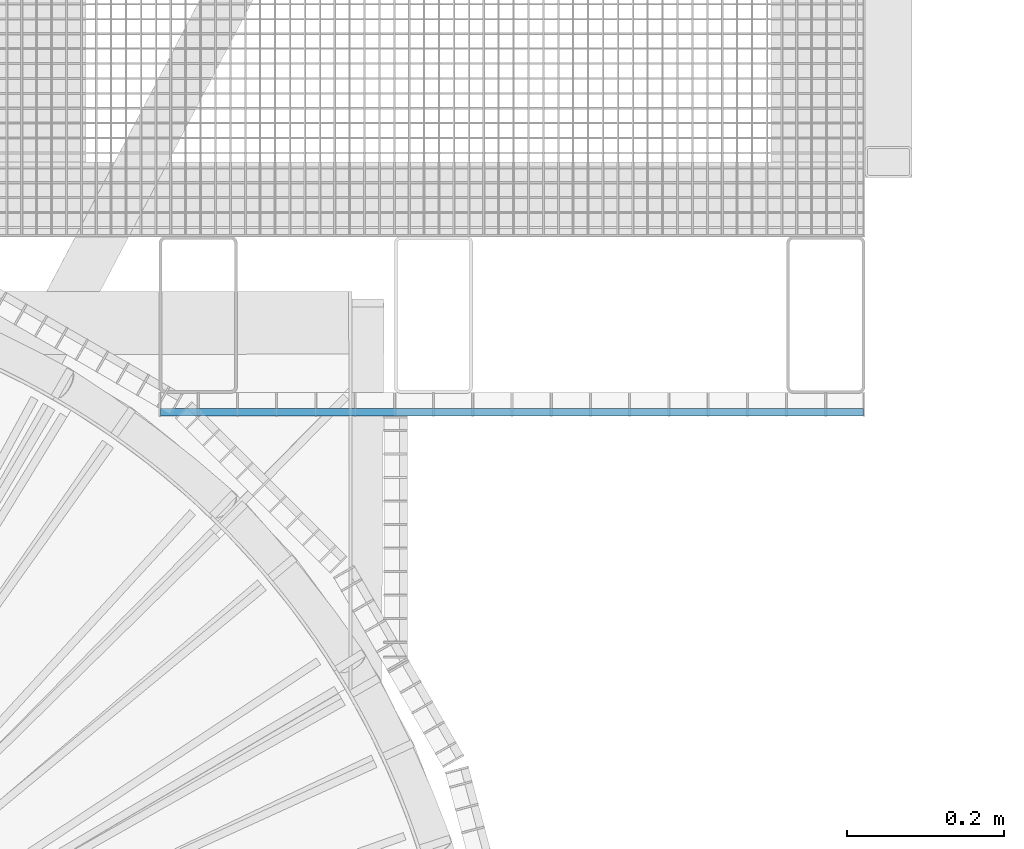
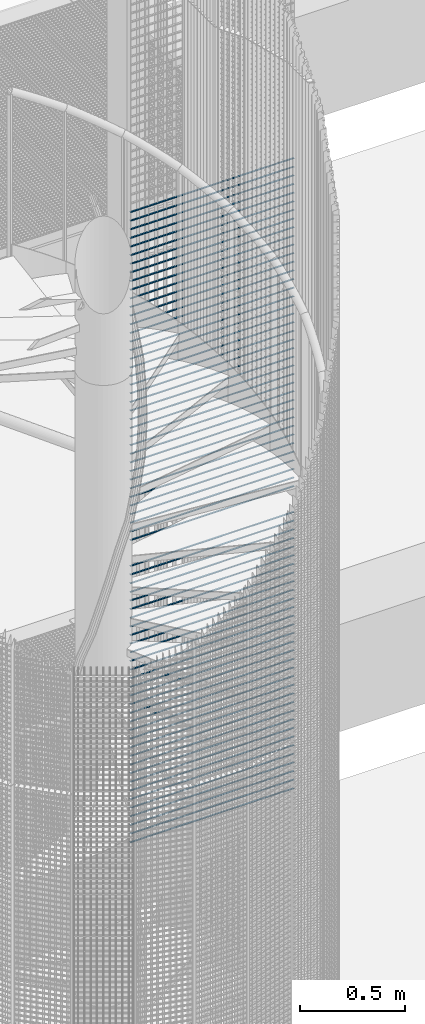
# One storey, part 305 of 1183: 72 beams, 1 element without a shape of its own.
"""IFC2X3 building model written with IfcOpenShell, lengths in millimetres."""

from ifc_helpers import new_model, si_unit, frame, origin_with_axes, origin_2d_with_axis, place, context, subcontext, project, spatial, rectangle, extrude, material, type_object, element, aggregate, save


model = new_model("IFC2X3")

# Units and contexts
model_context = context("Model", 3, precision=1e-05, world=origin_with_axes())
body_context = subcontext(model_context, "Body", "Model", "MODEL_VIEW")
ifc_project = project(units=[si_unit("LENGTHUNIT", "METRE", prefix="MILLI"), si_unit("AREAUNIT", "SQUARE_METRE"), si_unit("VOLUMEUNIT", "CUBIC_METRE"), si_unit("MASSUNIT", "GRAM", prefix="KILO"), si_unit("TIMEUNIT", "SECOND"), si_unit("PLANEANGLEUNIT", "RADIAN"), si_unit("SOLIDANGLEUNIT", "STERADIAN"), si_unit("THERMODYNAMICTEMPERATUREUNIT", "DEGREE_CELSIUS"), si_unit("LUMINOUSINTENSITYUNIT", "LUMEN")], contexts=[model_context])

# Site, building, storey
site_placement = place(None, origin_with_axes())
site = spatial("IfcSite", under=ifc_project, at=site_placement, Name="Undefined", CompositionType="ELEMENT")
building_placement = place(site_placement, origin_with_axes())
building = spatial("IfcBuilding", under=site, at=building_placement, Name="Undefined", CompositionType="ELEMENT")
storey_placement = place(building_placement, origin_with_axes())
storey = spatial("IfcBuildingStorey", under=building, at=storey_placement, Name="Undefined", CompositionType="ELEMENT", Elevation=0.0)

# Assembly, beams
assembly_placement = place(storey_placement, origin_with_axes())
assembly = element("IfcElementAssembly", 1, at=assembly_placement, inside=storey, Name="BORDURE", AssemblyPlace="NOTDEFINED", PredefinedType="NOTDEFINED")
ifc_material = material(Name="STEEL/S235JR")
beam_type = type_object("IfcBeamType", Name="PL2*10", PredefinedType="NOTDEFINED")
beam_1_placement = place(assembly_placement, frame((652.069589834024, 876.014689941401, 13839.998), z_axis=(0.0, -1.0, 0.0), x_axis=(1.0, 0.0, 0.0)))
beam_1 = element("IfcBeam", 2, at=beam_1_placement, type_object=beam_type, material=ifc_material, Name="ENTRETOISE", context=body_context, shape_type="SweptSolid", body=[
    extrude(rectangle(XDim=2.0, YDim=10.0, at=origin_2d_with_axis()), frame((896.0, 0.0, 0.0), z_axis=(-1.0, 0.0, 0.0), x_axis=(0.0, -1.0, 0.0)), (0.0, 0.0, 1.0), 896.0),
])
beam_2_placement = place(assembly_placement, frame((652.069589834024, 876.014689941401, 13789.998), z_axis=(0.0, -1.0, 0.0), x_axis=(1.0, 0.0, 0.0)))
beam_2 = element("IfcBeam", 3, at=beam_2_placement, type_object=beam_type, material=ifc_material, Name="ENTRETOISE", context=body_context, shape_type="SweptSolid", body=[
    extrude(rectangle(XDim=2.0, YDim=10.0, at=origin_2d_with_axis()), frame((896.0, 0.0, 0.0), z_axis=(-1.0, 0.0, 0.0), x_axis=(0.0, -1.0, 0.0)), (0.0, 0.0, 1.0), 896.0),
])
beam_3_placement = place(assembly_placement, frame((652.069589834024, 876.014689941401, 13739.998), z_axis=(0.0, -1.0, 0.0), x_axis=(1.0, 0.0, 0.0)))
beam_3 = element("IfcBeam", 4, at=beam_3_placement, type_object=beam_type, material=ifc_material, Name="ENTRETOISE", context=body_context, shape_type="SweptSolid", body=[
    extrude(rectangle(XDim=2.0, YDim=10.0, at=origin_2d_with_axis()), frame((896.0, 0.0, 0.0), z_axis=(-1.0, 0.0, 0.0), x_axis=(0.0, -1.0, 0.0)), (0.0, 0.0, 1.0), 896.0),
])
beam_4_placement = place(assembly_placement, frame((652.069589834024, 876.014689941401, 13689.998), z_axis=(0.0, -1.0, 0.0), x_axis=(1.0, 0.0, 0.0)))
beam_4 = element("IfcBeam", 5, at=beam_4_placement, type_object=beam_type, material=ifc_material, Name="ENTRETOISE", context=body_context, shape_type="SweptSolid", body=[
    extrude(rectangle(XDim=2.0, YDim=10.0, at=origin_2d_with_axis()), frame((896.0, 0.0, 0.0), z_axis=(-1.0, 0.0, 0.0), x_axis=(0.0, -1.0, 0.0)), (0.0, 0.0, 1.0), 896.0),
])
beam_5_placement = place(assembly_placement, frame((652.069589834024, 876.014689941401, 13639.998), z_axis=(0.0, -1.0, 0.0), x_axis=(1.0, 0.0, 0.0)))
beam_5 = element("IfcBeam", 6, at=beam_5_placement, type_object=beam_type, material=ifc_material, Name="ENTRETOISE", context=body_context, shape_type="SweptSolid", body=[
    extrude(rectangle(XDim=2.0, YDim=10.0, at=origin_2d_with_axis()), frame((896.0, 0.0, 0.0), z_axis=(-1.0, 0.0, 0.0), x_axis=(0.0, -1.0, 0.0)), (0.0, 0.0, 1.0), 896.0),
])
beam_6_placement = place(assembly_placement, frame((652.069589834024, 876.014689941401, 13589.998), z_axis=(0.0, -1.0, 0.0), x_axis=(1.0, 0.0, 0.0)))
beam_6 = element("IfcBeam", 7, at=beam_6_placement, type_object=beam_type, material=ifc_material, Name="ENTRETOISE", context=body_context, shape_type="SweptSolid", body=[
    extrude(rectangle(XDim=2.0, YDim=10.0, at=origin_2d_with_axis()), frame((896.0, 0.0, 0.0), z_axis=(-1.0, 0.0, 0.0), x_axis=(0.0, -1.0, 0.0)), (0.0, 0.0, 1.0), 896.0),
])
beam_7_placement = place(assembly_placement, frame((652.069589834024, 876.014689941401, 13539.998), z_axis=(0.0, -1.0, 0.0), x_axis=(1.0, 0.0, 0.0)))
beam_7 = element("IfcBeam", 8, at=beam_7_placement, type_object=beam_type, material=ifc_material, Name="ENTRETOISE", context=body_context, shape_type="SweptSolid", body=[
    extrude(rectangle(XDim=2.0, YDim=10.0, at=origin_2d_with_axis()), frame((896.0, 0.0, 0.0), z_axis=(-1.0, 0.0, 0.0), x_axis=(0.0, -1.0, 0.0)), (0.0, 0.0, 1.0), 896.0),
])
beam_8_placement = place(assembly_placement, frame((652.069589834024, 876.014689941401, 13489.998), z_axis=(0.0, -1.0, 0.0), x_axis=(1.0, 0.0, 0.0)))
beam_8 = element("IfcBeam", 9, at=beam_8_placement, type_object=beam_type, material=ifc_material, Name="ENTRETOISE", context=body_context, shape_type="SweptSolid", body=[
    extrude(rectangle(XDim=2.0, YDim=10.0, at=origin_2d_with_axis()), frame((896.0, 0.0, 0.0), z_axis=(-1.0, 0.0, 0.0), x_axis=(0.0, -1.0, 0.0)), (0.0, 0.0, 1.0), 896.0),
])
beam_9_placement = place(assembly_placement, frame((652.069589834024, 876.014689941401, 13439.998), z_axis=(0.0, -1.0, 0.0), x_axis=(1.0, 0.0, 0.0)))
beam_9 = element("IfcBeam", 10, at=beam_9_placement, type_object=beam_type, material=ifc_material, Name="ENTRETOISE", context=body_context, shape_type="SweptSolid", body=[
    extrude(rectangle(XDim=2.0, YDim=10.0, at=origin_2d_with_axis()), frame((896.0, 0.0, 0.0), z_axis=(-1.0, 0.0, 0.0), x_axis=(0.0, -1.0, 0.0)), (0.0, 0.0, 1.0), 896.0),
])
beam_10_placement = place(assembly_placement, frame((652.069589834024, 876.014689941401, 13389.998), z_axis=(0.0, -1.0, 0.0), x_axis=(1.0, 0.0, 0.0)))
beam_10 = element("IfcBeam", 11, at=beam_10_placement, type_object=beam_type, material=ifc_material, Name="ENTRETOISE", context=body_context, shape_type="SweptSolid", body=[
    extrude(rectangle(XDim=2.0, YDim=10.0, at=origin_2d_with_axis()), frame((896.0, 0.0, 0.0), z_axis=(-1.0, 0.0, 0.0), x_axis=(0.0, -1.0, 0.0)), (0.0, 0.0, 1.0), 896.0),
])
beam_11_placement = place(assembly_placement, frame((652.069589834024, 876.014689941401, 13339.998), z_axis=(0.0, -1.0, 0.0), x_axis=(1.0, 0.0, 0.0)))
beam_11 = element("IfcBeam", 12, at=beam_11_placement, type_object=beam_type, material=ifc_material, Name="ENTRETOISE", context=body_context, shape_type="SweptSolid", body=[
    extrude(rectangle(XDim=2.0, YDim=10.0, at=origin_2d_with_axis()), frame((896.0, 0.0, 0.0), z_axis=(-1.0, 0.0, 0.0), x_axis=(0.0, -1.0, 0.0)), (0.0, 0.0, 1.0), 896.0),
])
beam_12_placement = place(assembly_placement, frame((652.069589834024, 876.014689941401, 13289.998), z_axis=(0.0, -1.0, 0.0), x_axis=(1.0, 0.0, 0.0)))
beam_12 = element("IfcBeam", 13, at=beam_12_placement, type_object=beam_type, material=ifc_material, Name="ENTRETOISE", context=body_context, shape_type="SweptSolid", body=[
    extrude(rectangle(XDim=2.0, YDim=10.0, at=origin_2d_with_axis()), frame((896.0, 0.0, 0.0), z_axis=(-1.0, 0.0, 0.0), x_axis=(0.0, -1.0, 0.0)), (0.0, 0.0, 1.0), 896.0),
])
beam_13_placement = place(assembly_placement, frame((652.069589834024, 876.014689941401, 13239.998), z_axis=(0.0, -1.0, 0.0), x_axis=(1.0, 0.0, 0.0)))
beam_13 = element("IfcBeam", 14, at=beam_13_placement, type_object=beam_type, material=ifc_material, Name="ENTRETOISE", context=body_context, shape_type="SweptSolid", body=[
    extrude(rectangle(XDim=2.0, YDim=10.0, at=origin_2d_with_axis()), frame((896.0, 0.0, 0.0), z_axis=(-1.0, 0.0, 0.0), x_axis=(0.0, -1.0, 0.0)), (0.0, 0.0, 1.0), 896.0),
])
beam_14_placement = place(assembly_placement, frame((652.069589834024, 876.014689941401, 13189.998), z_axis=(0.0, -1.0, 0.0), x_axis=(1.0, 0.0, 0.0)))
beam_14 = element("IfcBeam", 15, at=beam_14_placement, type_object=beam_type, material=ifc_material, Name="ENTRETOISE", context=body_context, shape_type="SweptSolid", body=[
    extrude(rectangle(XDim=2.0, YDim=10.0, at=origin_2d_with_axis()), frame((896.0, 0.0, 0.0), z_axis=(-1.0, 0.0, 0.0), x_axis=(0.0, -1.0, 0.0)), (0.0, 0.0, 1.0), 896.0),
])
beam_15_placement = place(assembly_placement, frame((652.069589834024, 876.014689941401, 13139.998), z_axis=(0.0, -1.0, 0.0), x_axis=(1.0, 0.0, 0.0)))
beam_15 = element("IfcBeam", 16, at=beam_15_placement, type_object=beam_type, material=ifc_material, Name="ENTRETOISE", context=body_context, shape_type="SweptSolid", body=[
    extrude(rectangle(XDim=2.0, YDim=10.0, at=origin_2d_with_axis()), frame((896.0, 0.0, 0.0), z_axis=(-1.0, 0.0, 0.0), x_axis=(0.0, -1.0, 0.0)), (0.0, 0.0, 1.0), 896.0),
])
beam_16_placement = place(assembly_placement, frame((652.069589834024, 876.014689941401, 13089.998), z_axis=(0.0, -1.0, 0.0), x_axis=(1.0, 0.0, 0.0)))
beam_16 = element("IfcBeam", 17, at=beam_16_placement, type_object=beam_type, material=ifc_material, Name="ENTRETOISE", context=body_context, shape_type="SweptSolid", body=[
    extrude(rectangle(XDim=2.0, YDim=10.0, at=origin_2d_with_axis()), frame((896.0, 0.0, 0.0), z_axis=(-1.0, 0.0, 0.0), x_axis=(0.0, -1.0, 0.0)), (0.0, 0.0, 1.0), 896.0),
])
beam_17_placement = place(assembly_placement, frame((652.069589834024, 876.014689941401, 13039.998), z_axis=(0.0, -1.0, 0.0), x_axis=(1.0, 0.0, 0.0)))
beam_17 = element("IfcBeam", 18, at=beam_17_placement, type_object=beam_type, material=ifc_material, Name="ENTRETOISE", context=body_context, shape_type="SweptSolid", body=[
    extrude(rectangle(XDim=2.0, YDim=10.0, at=origin_2d_with_axis()), frame((896.0, 0.0, 0.0), z_axis=(-1.0, 0.0, 0.0), x_axis=(0.0, -1.0, 0.0)), (0.0, 0.0, 1.0), 896.0),
])
beam_18_placement = place(assembly_placement, frame((652.069589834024, 876.014689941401, 12989.998), z_axis=(0.0, -1.0, 0.0), x_axis=(1.0, 0.0, 0.0)))
beam_18 = element("IfcBeam", 19, at=beam_18_placement, type_object=beam_type, material=ifc_material, Name="ENTRETOISE", context=body_context, shape_type="SweptSolid", body=[
    extrude(rectangle(XDim=2.0, YDim=10.0, at=origin_2d_with_axis()), frame((896.0, 0.0, 0.0), z_axis=(-1.0, 0.0, 0.0), x_axis=(0.0, -1.0, 0.0)), (0.0, 0.0, 1.0), 896.0),
])
beam_19_placement = place(assembly_placement, frame((652.069589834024, 876.014689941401, 12939.998), z_axis=(0.0, -1.0, 0.0), x_axis=(1.0, 0.0, 0.0)))
beam_19 = element("IfcBeam", 20, at=beam_19_placement, type_object=beam_type, material=ifc_material, Name="ENTRETOISE", context=body_context, shape_type="SweptSolid", body=[
    extrude(rectangle(XDim=2.0, YDim=10.0, at=origin_2d_with_axis()), frame((896.0, 0.0, 0.0), z_axis=(-1.0, 0.0, 0.0), x_axis=(0.0, -1.0, 0.0)), (0.0, 0.0, 1.0), 896.0),
])
beam_20_placement = place(assembly_placement, frame((652.069589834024, 876.014689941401, 12889.998), z_axis=(0.0, -1.0, 0.0), x_axis=(1.0, 0.0, 0.0)))
beam_20 = element("IfcBeam", 21, at=beam_20_placement, type_object=beam_type, material=ifc_material, Name="ENTRETOISE", context=body_context, shape_type="SweptSolid", body=[
    extrude(rectangle(XDim=2.0, YDim=10.0, at=origin_2d_with_axis()), frame((896.0, 0.0, 0.0), z_axis=(-1.0, 0.0, 0.0), x_axis=(0.0, -1.0, 0.0)), (0.0, 0.0, 1.0), 896.0),
])
beam_21_placement = place(assembly_placement, frame((652.069589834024, 876.014689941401, 12839.998), z_axis=(0.0, -1.0, 0.0), x_axis=(1.0, 0.0, 0.0)))
beam_21 = element("IfcBeam", 22, at=beam_21_placement, type_object=beam_type, material=ifc_material, Name="ENTRETOISE", context=body_context, shape_type="SweptSolid", body=[
    extrude(rectangle(XDim=2.0, YDim=10.0, at=origin_2d_with_axis()), frame((896.0, 0.0, 0.0), z_axis=(-1.0, 0.0, 0.0), x_axis=(0.0, -1.0, 0.0)), (0.0, 0.0, 1.0), 896.0),
])
beam_22_placement = place(assembly_placement, frame((652.069589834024, 876.014689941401, 12789.998), z_axis=(0.0, -1.0, 0.0), x_axis=(1.0, 0.0, 0.0)))
beam_22 = element("IfcBeam", 23, at=beam_22_placement, type_object=beam_type, material=ifc_material, Name="ENTRETOISE", context=body_context, shape_type="SweptSolid", body=[
    extrude(rectangle(XDim=2.0, YDim=10.0, at=origin_2d_with_axis()), frame((896.0, 0.0, 0.0), z_axis=(-1.0, 0.0, 0.0), x_axis=(0.0, -1.0, 0.0)), (0.0, 0.0, 1.0), 896.0),
])
beam_23_placement = place(assembly_placement, frame((652.069589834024, 876.014689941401, 12739.998), z_axis=(0.0, -1.0, 0.0), x_axis=(1.0, 0.0, 0.0)))
beam_23 = element("IfcBeam", 24, at=beam_23_placement, type_object=beam_type, material=ifc_material, Name="ENTRETOISE", context=body_context, shape_type="SweptSolid", body=[
    extrude(rectangle(XDim=2.0, YDim=10.0, at=origin_2d_with_axis()), frame((896.0, 0.0, 0.0), z_axis=(-1.0, 0.0, 0.0), x_axis=(0.0, -1.0, 0.0)), (0.0, 0.0, 1.0), 896.0),
])
beam_24_placement = place(assembly_placement, frame((652.069589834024, 876.014689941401, 12689.998), z_axis=(0.0, -1.0, 0.0), x_axis=(1.0, 0.0, 0.0)))
beam_24 = element("IfcBeam", 25, at=beam_24_placement, type_object=beam_type, material=ifc_material, Name="ENTRETOISE", context=body_context, shape_type="SweptSolid", body=[
    extrude(rectangle(XDim=2.0, YDim=10.0, at=origin_2d_with_axis()), frame((896.0, 0.0, 0.0), z_axis=(-1.0, 0.0, 0.0), x_axis=(0.0, -1.0, 0.0)), (0.0, 0.0, 1.0), 896.0),
])
beam_25_placement = place(assembly_placement, frame((652.069589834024, 876.014689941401, 12639.998), z_axis=(0.0, -1.0, 0.0), x_axis=(1.0, 0.0, 0.0)))
beam_25 = element("IfcBeam", 26, at=beam_25_placement, type_object=beam_type, material=ifc_material, Name="ENTRETOISE", context=body_context, shape_type="SweptSolid", body=[
    extrude(rectangle(XDim=2.0, YDim=10.0, at=origin_2d_with_axis()), frame((896.0, 0.0, 0.0), z_axis=(-1.0, 0.0, 0.0), x_axis=(0.0, -1.0, 0.0)), (0.0, 0.0, 1.0), 896.0),
])
beam_26_placement = place(assembly_placement, frame((652.069589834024, 876.014689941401, 12589.998), z_axis=(0.0, -1.0, 0.0), x_axis=(1.0, 0.0, 0.0)))
beam_26 = element("IfcBeam", 27, at=beam_26_placement, type_object=beam_type, material=ifc_material, Name="ENTRETOISE", context=body_context, shape_type="SweptSolid", body=[
    extrude(rectangle(XDim=2.0, YDim=10.0, at=origin_2d_with_axis()), frame((896.0, 0.0, 0.0), z_axis=(-1.0, 0.0, 0.0), x_axis=(0.0, -1.0, 0.0)), (0.0, 0.0, 1.0), 896.0),
])
beam_27_placement = place(assembly_placement, frame((652.069589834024, 876.014689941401, 12539.998), z_axis=(0.0, -1.0, 0.0), x_axis=(1.0, 0.0, 0.0)))
beam_27 = element("IfcBeam", 28, at=beam_27_placement, type_object=beam_type, material=ifc_material, Name="ENTRETOISE", context=body_context, shape_type="SweptSolid", body=[
    extrude(rectangle(XDim=2.0, YDim=10.0, at=origin_2d_with_axis()), frame((896.0, 0.0, 0.0), z_axis=(-1.0, 0.0, 0.0), x_axis=(0.0, -1.0, 0.0)), (0.0, 0.0, 1.0), 896.0),
])
beam_28_placement = place(assembly_placement, frame((652.069589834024, 876.014689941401, 12489.998), z_axis=(0.0, -1.0, 0.0), x_axis=(1.0, 0.0, 0.0)))
beam_28 = element("IfcBeam", 29, at=beam_28_placement, type_object=beam_type, material=ifc_material, Name="ENTRETOISE", context=body_context, shape_type="SweptSolid", body=[
    extrude(rectangle(XDim=2.0, YDim=10.0, at=origin_2d_with_axis()), frame((896.0, 0.0, 0.0), z_axis=(-1.0, 0.0, 0.0), x_axis=(0.0, -1.0, 0.0)), (0.0, 0.0, 1.0), 896.0),
])
beam_29_placement = place(assembly_placement, frame((652.069589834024, 876.014689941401, 12439.998), z_axis=(0.0, -1.0, 0.0), x_axis=(1.0, 0.0, 0.0)))
beam_29 = element("IfcBeam", 30, at=beam_29_placement, type_object=beam_type, material=ifc_material, Name="ENTRETOISE", context=body_context, shape_type="SweptSolid", body=[
    extrude(rectangle(XDim=2.0, YDim=10.0, at=origin_2d_with_axis()), frame((896.0, 0.0, 0.0), z_axis=(-1.0, 0.0, 0.0), x_axis=(0.0, -1.0, 0.0)), (0.0, 0.0, 1.0), 896.0),
])
beam_30_placement = place(assembly_placement, frame((652.069589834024, 876.014689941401, 12389.998), z_axis=(0.0, -1.0, 0.0), x_axis=(1.0, 0.0, 0.0)))
beam_30 = element("IfcBeam", 31, at=beam_30_placement, type_object=beam_type, material=ifc_material, Name="ENTRETOISE", context=body_context, shape_type="SweptSolid", body=[
    extrude(rectangle(XDim=2.0, YDim=10.0, at=origin_2d_with_axis()), frame((896.0, 0.0, 0.0), z_axis=(-1.0, 0.0, 0.0), x_axis=(0.0, -1.0, 0.0)), (0.0, 0.0, 1.0), 896.0),
])
beam_31_placement = place(assembly_placement, frame((652.069589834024, 876.014689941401, 12339.998), z_axis=(0.0, -1.0, 0.0), x_axis=(1.0, 0.0, 0.0)))
beam_31 = element("IfcBeam", 32, at=beam_31_placement, type_object=beam_type, material=ifc_material, Name="ENTRETOISE", context=body_context, shape_type="SweptSolid", body=[
    extrude(rectangle(XDim=2.0, YDim=10.0, at=origin_2d_with_axis()), frame((896.0, 0.0, 0.0), z_axis=(-1.0, 0.0, 0.0), x_axis=(0.0, -1.0, 0.0)), (0.0, 0.0, 1.0), 896.0),
])
beam_32_placement = place(assembly_placement, frame((652.069589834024, 876.014689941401, 12289.998), z_axis=(0.0, -1.0, 0.0), x_axis=(1.0, 0.0, 0.0)))
beam_32 = element("IfcBeam", 33, at=beam_32_placement, type_object=beam_type, material=ifc_material, Name="ENTRETOISE", context=body_context, shape_type="SweptSolid", body=[
    extrude(rectangle(XDim=2.0, YDim=10.0, at=origin_2d_with_axis()), frame((896.0, 0.0, 0.0), z_axis=(-1.0, 0.0, 0.0), x_axis=(0.0, -1.0, 0.0)), (0.0, 0.0, 1.0), 896.0),
])
beam_33_placement = place(assembly_placement, frame((652.069589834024, 876.014689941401, 12239.998), z_axis=(0.0, -1.0, 0.0), x_axis=(1.0, 0.0, 0.0)))
beam_33 = element("IfcBeam", 34, at=beam_33_placement, type_object=beam_type, material=ifc_material, Name="ENTRETOISE", context=body_context, shape_type="SweptSolid", body=[
    extrude(rectangle(XDim=2.0, YDim=10.0, at=origin_2d_with_axis()), frame((896.0, 0.0, 0.0), z_axis=(-1.0, 0.0, 0.0), x_axis=(0.0, -1.0, 0.0)), (0.0, 0.0, 1.0), 896.0),
])
beam_34_placement = place(assembly_placement, frame((652.069589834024, 876.014689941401, 12189.998), z_axis=(0.0, -1.0, 0.0), x_axis=(1.0, 0.0, 0.0)))
beam_34 = element("IfcBeam", 35, at=beam_34_placement, type_object=beam_type, material=ifc_material, Name="ENTRETOISE", context=body_context, shape_type="SweptSolid", body=[
    extrude(rectangle(XDim=2.0, YDim=10.0, at=origin_2d_with_axis()), frame((896.0, 0.0, 0.0), z_axis=(-1.0, 0.0, 0.0), x_axis=(0.0, -1.0, 0.0)), (0.0, 0.0, 1.0), 896.0),
])
beam_35_placement = place(assembly_placement, frame((652.069589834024, 876.014689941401, 12139.998), z_axis=(0.0, -1.0, 0.0), x_axis=(1.0, 0.0, 0.0)))
beam_35 = element("IfcBeam", 36, at=beam_35_placement, type_object=beam_type, material=ifc_material, Name="ENTRETOISE", context=body_context, shape_type="SweptSolid", body=[
    extrude(rectangle(XDim=2.0, YDim=10.0, at=origin_2d_with_axis()), frame((896.0, 0.0, 0.0), z_axis=(-1.0, 0.0, 0.0), x_axis=(0.0, -1.0, 0.0)), (0.0, 0.0, 1.0), 896.0),
])
beam_36_placement = place(assembly_placement, frame((652.069589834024, 876.014689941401, 12089.998), z_axis=(0.0, -1.0, 0.0), x_axis=(1.0, 0.0, 0.0)))
beam_36 = element("IfcBeam", 37, at=beam_36_placement, type_object=beam_type, material=ifc_material, Name="ENTRETOISE", context=body_context, shape_type="SweptSolid", body=[
    extrude(rectangle(XDim=2.0, YDim=10.0, at=origin_2d_with_axis()), frame((896.0, 0.0, 0.0), z_axis=(-1.0, 0.0, 0.0), x_axis=(0.0, -1.0, 0.0)), (0.0, 0.0, 1.0), 896.0),
])
beam_37_placement = place(assembly_placement, frame((652.069589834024, 876.014689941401, 12039.998), z_axis=(0.0, -1.0, 0.0), x_axis=(1.0, 0.0, 0.0)))
beam_37 = element("IfcBeam", 38, at=beam_37_placement, type_object=beam_type, material=ifc_material, Name="ENTRETOISE", context=body_context, shape_type="SweptSolid", body=[
    extrude(rectangle(XDim=2.0, YDim=10.0, at=origin_2d_with_axis()), frame((896.0, 0.0, 0.0), z_axis=(-1.0, 0.0, 0.0), x_axis=(0.0, -1.0, 0.0)), (0.0, 0.0, 1.0), 896.0),
])
beam_38_placement = place(assembly_placement, frame((652.069589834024, 876.014689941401, 11989.998), z_axis=(0.0, -1.0, 0.0), x_axis=(1.0, 0.0, 0.0)))
beam_38 = element("IfcBeam", 39, at=beam_38_placement, type_object=beam_type, material=ifc_material, Name="ENTRETOISE", context=body_context, shape_type="SweptSolid", body=[
    extrude(rectangle(XDim=2.0, YDim=10.0, at=origin_2d_with_axis()), frame((896.0, 0.0, 0.0), z_axis=(-1.0, 0.0, 0.0), x_axis=(0.0, -1.0, 0.0)), (0.0, 0.0, 1.0), 896.0),
])
beam_39_placement = place(assembly_placement, frame((652.069589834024, 876.014689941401, 11939.998), z_axis=(0.0, -1.0, 0.0), x_axis=(1.0, 0.0, 0.0)))
beam_39 = element("IfcBeam", 40, at=beam_39_placement, type_object=beam_type, material=ifc_material, Name="ENTRETOISE", context=body_context, shape_type="SweptSolid", body=[
    extrude(rectangle(XDim=2.0, YDim=10.0, at=origin_2d_with_axis()), frame((896.0, 0.0, 0.0), z_axis=(-1.0, 0.0, 0.0), x_axis=(0.0, -1.0, 0.0)), (0.0, 0.0, 1.0), 896.0),
])
beam_40_placement = place(assembly_placement, frame((652.069589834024, 876.014689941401, 10789.998), z_axis=(0.0, -1.0, 0.0), x_axis=(1.0, 0.0, 0.0)))
beam_40 = element("IfcBeam", 41, at=beam_40_placement, type_object=beam_type, material=ifc_material, Name="ENTRETOISE", context=body_context, shape_type="SweptSolid", body=[
    extrude(rectangle(XDim=2.0, YDim=10.0, at=origin_2d_with_axis()), frame((896.0, 0.0, 0.0), z_axis=(-1.0, 0.0, 0.0), x_axis=(0.0, -1.0, 0.0)), (0.0, 0.0, 1.0), 896.0),
])
beam_41_placement = place(assembly_placement, frame((652.069589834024, 876.014689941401, 10839.998), z_axis=(0.0, -1.0, 0.0), x_axis=(1.0, 0.0, 0.0)))
beam_41 = element("IfcBeam", 42, at=beam_41_placement, type_object=beam_type, material=ifc_material, Name="ENTRETOISE", context=body_context, shape_type="SweptSolid", body=[
    extrude(rectangle(XDim=2.0, YDim=10.0, at=origin_2d_with_axis()), frame((896.0, 0.0, 0.0), z_axis=(-1.0, 0.0, 0.0), x_axis=(0.0, -1.0, 0.0)), (0.0, 0.0, 1.0), 896.0),
])
beam_42_placement = place(assembly_placement, frame((652.069589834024, 876.014689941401, 10739.998), z_axis=(0.0, -1.0, 0.0), x_axis=(1.0, 0.0, 0.0)))
beam_42 = element("IfcBeam", 43, at=beam_42_placement, type_object=beam_type, material=ifc_material, Name="ENTRETOISE", context=body_context, shape_type="SweptSolid", body=[
    extrude(rectangle(XDim=2.0, YDim=10.0, at=origin_2d_with_axis()), frame((896.0, 0.0, 0.0), z_axis=(-1.0, 0.0, 0.0), x_axis=(0.0, -1.0, 0.0)), (0.0, 0.0, 1.0), 896.0),
])
beam_43_placement = place(assembly_placement, frame((652.069589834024, 876.014689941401, 10889.998), z_axis=(0.0, -1.0, 0.0), x_axis=(1.0, 0.0, 0.0)))
beam_43 = element("IfcBeam", 44, at=beam_43_placement, type_object=beam_type, material=ifc_material, Name="ENTRETOISE", context=body_context, shape_type="SweptSolid", body=[
    extrude(rectangle(XDim=2.0, YDim=10.0, at=origin_2d_with_axis()), frame((896.0, 0.0, 0.0), z_axis=(-1.0, 0.0, 0.0), x_axis=(0.0, -1.0, 0.0)), (0.0, 0.0, 1.0), 896.0),
])
beam_44_placement = place(assembly_placement, frame((652.069589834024, 876.014689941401, 10689.998), z_axis=(0.0, -1.0, 0.0), x_axis=(1.0, 0.0, 0.0)))
beam_44 = element("IfcBeam", 45, at=beam_44_placement, type_object=beam_type, material=ifc_material, Name="ENTRETOISE", context=body_context, shape_type="SweptSolid", body=[
    extrude(rectangle(XDim=2.0, YDim=10.0, at=origin_2d_with_axis()), frame((896.0, 0.0, 0.0), z_axis=(-1.0, 0.0, 0.0), x_axis=(0.0, -1.0, 0.0)), (0.0, 0.0, 1.0), 896.0),
])
beam_45_placement = place(assembly_placement, frame((652.069589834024, 876.014689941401, 10939.998), z_axis=(0.0, -1.0, 0.0), x_axis=(1.0, 0.0, 0.0)))
beam_45 = element("IfcBeam", 46, at=beam_45_placement, type_object=beam_type, material=ifc_material, Name="ENTRETOISE", context=body_context, shape_type="SweptSolid", body=[
    extrude(rectangle(XDim=2.0, YDim=10.0, at=origin_2d_with_axis()), frame((896.0, 0.0, 0.0), z_axis=(-1.0, 0.0, 0.0), x_axis=(0.0, -1.0, 0.0)), (0.0, 0.0, 1.0), 896.0),
])
beam_46_placement = place(assembly_placement, frame((652.069589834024, 876.014689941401, 10989.998), z_axis=(0.0, -1.0, 0.0), x_axis=(1.0, 0.0, 0.0)))
beam_46 = element("IfcBeam", 47, at=beam_46_placement, type_object=beam_type, material=ifc_material, Name="ENTRETOISE", context=body_context, shape_type="SweptSolid", body=[
    extrude(rectangle(XDim=2.0, YDim=10.0, at=origin_2d_with_axis()), frame((896.0, 0.0, 0.0), z_axis=(-1.0, 0.0, 0.0), x_axis=(0.0, -1.0, 0.0)), (0.0, 0.0, 1.0), 896.0),
])
beam_47_placement = place(assembly_placement, frame((652.069589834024, 876.014689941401, 10639.998), z_axis=(0.0, -1.0, 0.0), x_axis=(1.0, 0.0, 0.0)))
beam_47 = element("IfcBeam", 48, at=beam_47_placement, type_object=beam_type, material=ifc_material, Name="ENTRETOISE", context=body_context, shape_type="SweptSolid", body=[
    extrude(rectangle(XDim=2.0, YDim=10.0, at=origin_2d_with_axis()), frame((896.0, 0.0, 0.0), z_axis=(-1.0, 0.0, 0.0), x_axis=(0.0, -1.0, 0.0)), (0.0, 0.0, 1.0), 896.0),
])
beam_48_placement = place(assembly_placement, frame((652.069589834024, 876.014689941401, 11039.998), z_axis=(0.0, -1.0, 0.0), x_axis=(1.0, 0.0, 0.0)))
beam_48 = element("IfcBeam", 49, at=beam_48_placement, type_object=beam_type, material=ifc_material, Name="ENTRETOISE", context=body_context, shape_type="SweptSolid", body=[
    extrude(rectangle(XDim=2.0, YDim=10.0, at=origin_2d_with_axis()), frame((896.0, 0.0, 0.0), z_axis=(-1.0, 0.0, 0.0), x_axis=(0.0, -1.0, 0.0)), (0.0, 0.0, 1.0), 896.0),
])
beam_49_placement = place(assembly_placement, frame((652.069589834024, 876.014689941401, 11089.998), z_axis=(0.0, -1.0, 0.0), x_axis=(1.0, 0.0, 0.0)))
beam_49 = element("IfcBeam", 50, at=beam_49_placement, type_object=beam_type, material=ifc_material, Name="ENTRETOISE", context=body_context, shape_type="SweptSolid", body=[
    extrude(rectangle(XDim=2.0, YDim=10.0, at=origin_2d_with_axis()), frame((896.0, 0.0, 0.0), z_axis=(-1.0, 0.0, 0.0), x_axis=(0.0, -1.0, 0.0)), (0.0, 0.0, 1.0), 896.0),
])
beam_50_placement = place(assembly_placement, frame((652.069589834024, 876.014689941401, 10589.998), z_axis=(0.0, -1.0, 0.0), x_axis=(1.0, 0.0, 0.0)))
beam_50 = element("IfcBeam", 51, at=beam_50_placement, type_object=beam_type, material=ifc_material, Name="ENTRETOISE", context=body_context, shape_type="SweptSolid", body=[
    extrude(rectangle(XDim=2.0, YDim=10.0, at=origin_2d_with_axis()), frame((896.0, 0.0, 0.0), z_axis=(-1.0, 0.0, 0.0), x_axis=(0.0, -1.0, 0.0)), (0.0, 0.0, 1.0), 896.0),
])
beam_51_placement = place(assembly_placement, frame((652.069589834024, 876.014689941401, 11139.998), z_axis=(0.0, -1.0, 0.0), x_axis=(1.0, 0.0, 0.0)))
beam_51 = element("IfcBeam", 52, at=beam_51_placement, type_object=beam_type, material=ifc_material, Name="ENTRETOISE", context=body_context, shape_type="SweptSolid", body=[
    extrude(rectangle(XDim=2.0, YDim=10.0, at=origin_2d_with_axis()), frame((896.0, 0.0, 0.0), z_axis=(-1.0, 0.0, 0.0), x_axis=(0.0, -1.0, 0.0)), (0.0, 0.0, 1.0), 896.0),
])
beam_52_placement = place(assembly_placement, frame((652.069589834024, 876.014689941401, 10539.998), z_axis=(0.0, -1.0, 0.0), x_axis=(1.0, 0.0, 0.0)))
beam_52 = element("IfcBeam", 53, at=beam_52_placement, type_object=beam_type, material=ifc_material, Name="ENTRETOISE", context=body_context, shape_type="SweptSolid", body=[
    extrude(rectangle(XDim=2.0, YDim=10.0, at=origin_2d_with_axis()), frame((896.0, 0.0, 0.0), z_axis=(-1.0, 0.0, 0.0), x_axis=(0.0, -1.0, 0.0)), (0.0, 0.0, 1.0), 896.0),
])
beam_53_placement = place(assembly_placement, frame((652.069589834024, 876.014689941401, 11189.998), z_axis=(0.0, -1.0, 0.0), x_axis=(1.0, 0.0, 0.0)))
beam_53 = element("IfcBeam", 54, at=beam_53_placement, type_object=beam_type, material=ifc_material, Name="ENTRETOISE", context=body_context, shape_type="SweptSolid", body=[
    extrude(rectangle(XDim=2.0, YDim=10.0, at=origin_2d_with_axis()), frame((896.0, 0.0, 0.0), z_axis=(-1.0, 0.0, 0.0), x_axis=(0.0, -1.0, 0.0)), (0.0, 0.0, 1.0), 896.0),
])
beam_54_placement = place(assembly_placement, frame((652.069589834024, 876.014689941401, 11239.998), z_axis=(0.0, -1.0, 0.0), x_axis=(1.0, 0.0, 0.0)))
beam_54 = element("IfcBeam", 55, at=beam_54_placement, type_object=beam_type, material=ifc_material, Name="ENTRETOISE", context=body_context, shape_type="SweptSolid", body=[
    extrude(rectangle(XDim=2.0, YDim=10.0, at=origin_2d_with_axis()), frame((896.0, 0.0, 0.0), z_axis=(-1.0, 0.0, 0.0), x_axis=(0.0, -1.0, 0.0)), (0.0, 0.0, 1.0), 896.0),
])
beam_55_placement = place(assembly_placement, frame((652.069589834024, 876.014689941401, 10489.998), z_axis=(0.0, -1.0, 0.0), x_axis=(1.0, 0.0, 0.0)))
beam_55 = element("IfcBeam", 56, at=beam_55_placement, type_object=beam_type, material=ifc_material, Name="ENTRETOISE", context=body_context, shape_type="SweptSolid", body=[
    extrude(rectangle(XDim=2.0, YDim=10.0, at=origin_2d_with_axis()), frame((896.0, 0.0, 0.0), z_axis=(-1.0, 0.0, 0.0), x_axis=(0.0, -1.0, 0.0)), (0.0, 0.0, 1.0), 896.0),
])
beam_56_placement = place(assembly_placement, frame((652.069589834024, 876.014689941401, 11289.998), z_axis=(0.0, -1.0, 0.0), x_axis=(1.0, 0.0, 0.0)))
beam_56 = element("IfcBeam", 57, at=beam_56_placement, type_object=beam_type, material=ifc_material, Name="ENTRETOISE", context=body_context, shape_type="SweptSolid", body=[
    extrude(rectangle(XDim=2.0, YDim=10.0, at=origin_2d_with_axis()), frame((896.0, 0.0, 0.0), z_axis=(-1.0, 0.0, 0.0), x_axis=(0.0, -1.0, 0.0)), (0.0, 0.0, 1.0), 896.0),
])
beam_57_placement = place(assembly_placement, frame((652.069589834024, 876.014689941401, 11339.998), z_axis=(0.0, -1.0, 0.0), x_axis=(1.0, 0.0, 0.0)))
beam_57 = element("IfcBeam", 58, at=beam_57_placement, type_object=beam_type, material=ifc_material, Name="ENTRETOISE", context=body_context, shape_type="SweptSolid", body=[
    extrude(rectangle(XDim=2.0, YDim=10.0, at=origin_2d_with_axis()), frame((896.0, 0.0, 0.0), z_axis=(-1.0, 0.0, 0.0), x_axis=(0.0, -1.0, 0.0)), (0.0, 0.0, 1.0), 896.0),
])
beam_58_placement = place(assembly_placement, frame((652.069589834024, 876.014689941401, 10439.998), z_axis=(0.0, -1.0, 0.0), x_axis=(1.0, 0.0, 0.0)))
beam_58 = element("IfcBeam", 59, at=beam_58_placement, type_object=beam_type, material=ifc_material, Name="ENTRETOISE", context=body_context, shape_type="SweptSolid", body=[
    extrude(rectangle(XDim=2.0, YDim=10.0, at=origin_2d_with_axis()), frame((896.0, 0.0, 0.0), z_axis=(-1.0, 0.0, 0.0), x_axis=(0.0, -1.0, 0.0)), (0.0, 0.0, 1.0), 896.0),
])
beam_59_placement = place(assembly_placement, frame((652.069589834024, 876.014689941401, 11389.998), z_axis=(0.0, -1.0, 0.0), x_axis=(1.0, 0.0, 0.0)))
beam_59 = element("IfcBeam", 60, at=beam_59_placement, type_object=beam_type, material=ifc_material, Name="ENTRETOISE", context=body_context, shape_type="SweptSolid", body=[
    extrude(rectangle(XDim=2.0, YDim=10.0, at=origin_2d_with_axis()), frame((896.0, 0.0, 0.0), z_axis=(-1.0, 0.0, 0.0), x_axis=(0.0, -1.0, 0.0)), (0.0, 0.0, 1.0), 896.0),
])
beam_60_placement = place(assembly_placement, frame((652.069589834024, 876.014689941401, 10389.998), z_axis=(0.0, -1.0, 0.0), x_axis=(1.0, 0.0, 0.0)))
beam_60 = element("IfcBeam", 61, at=beam_60_placement, type_object=beam_type, material=ifc_material, Name="ENTRETOISE", context=body_context, shape_type="SweptSolid", body=[
    extrude(rectangle(XDim=2.0, YDim=10.0, at=origin_2d_with_axis()), frame((896.0, 0.0, 0.0), z_axis=(-1.0, 0.0, 0.0), x_axis=(0.0, -1.0, 0.0)), (0.0, 0.0, 1.0), 896.0),
])
beam_61_placement = place(assembly_placement, frame((652.069589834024, 876.014689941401, 11439.998), z_axis=(0.0, -1.0, 0.0), x_axis=(1.0, 0.0, 0.0)))
beam_61 = element("IfcBeam", 62, at=beam_61_placement, type_object=beam_type, material=ifc_material, Name="ENTRETOISE", context=body_context, shape_type="SweptSolid", body=[
    extrude(rectangle(XDim=2.0, YDim=10.0, at=origin_2d_with_axis()), frame((896.0, 0.0, 0.0), z_axis=(-1.0, 0.0, 0.0), x_axis=(0.0, -1.0, 0.0)), (0.0, 0.0, 1.0), 896.0),
])
beam_62_placement = place(assembly_placement, frame((652.069589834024, 876.014689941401, 11489.998), z_axis=(0.0, -1.0, 0.0), x_axis=(1.0, 0.0, 0.0)))
beam_62 = element("IfcBeam", 63, at=beam_62_placement, type_object=beam_type, material=ifc_material, Name="ENTRETOISE", context=body_context, shape_type="SweptSolid", body=[
    extrude(rectangle(XDim=2.0, YDim=10.0, at=origin_2d_with_axis()), frame((896.0, 0.0, 0.0), z_axis=(-1.0, 0.0, 0.0), x_axis=(0.0, -1.0, 0.0)), (0.0, 0.0, 1.0), 896.0),
])
beam_63_placement = place(assembly_placement, frame((652.069589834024, 876.014689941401, 10339.998), z_axis=(0.0, -1.0, 0.0), x_axis=(1.0, 0.0, 0.0)))
beam_63 = element("IfcBeam", 64, at=beam_63_placement, type_object=beam_type, material=ifc_material, Name="ENTRETOISE", context=body_context, shape_type="SweptSolid", body=[
    extrude(rectangle(XDim=2.0, YDim=10.0, at=origin_2d_with_axis()), frame((896.0, 0.0, 0.0), z_axis=(-1.0, 0.0, 0.0), x_axis=(0.0, -1.0, 0.0)), (0.0, 0.0, 1.0), 896.0),
])
beam_64_placement = place(assembly_placement, frame((652.069589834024, 876.014689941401, 11539.998), z_axis=(0.0, -1.0, 0.0), x_axis=(1.0, 0.0, 0.0)))
beam_64 = element("IfcBeam", 65, at=beam_64_placement, type_object=beam_type, material=ifc_material, Name="ENTRETOISE", context=body_context, shape_type="SweptSolid", body=[
    extrude(rectangle(XDim=2.0, YDim=10.0, at=origin_2d_with_axis()), frame((896.0, 0.0, 0.0), z_axis=(-1.0, 0.0, 0.0), x_axis=(0.0, -1.0, 0.0)), (0.0, 0.0, 1.0), 896.0),
])
beam_65_placement = place(assembly_placement, frame((652.069589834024, 876.014689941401, 10289.998), z_axis=(0.0, -1.0, 0.0), x_axis=(1.0, 0.0, 0.0)))
beam_65 = element("IfcBeam", 66, at=beam_65_placement, type_object=beam_type, material=ifc_material, Name="ENTRETOISE", context=body_context, shape_type="SweptSolid", body=[
    extrude(rectangle(XDim=2.0, YDim=10.0, at=origin_2d_with_axis()), frame((896.0, 0.0, 0.0), z_axis=(-1.0, 0.0, 0.0), x_axis=(0.0, -1.0, 0.0)), (0.0, 0.0, 1.0), 896.0),
])
beam_66_placement = place(assembly_placement, frame((652.069589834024, 876.014689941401, 11589.998), z_axis=(0.0, -1.0, 0.0), x_axis=(1.0, 0.0, 0.0)))
beam_66 = element("IfcBeam", 67, at=beam_66_placement, type_object=beam_type, material=ifc_material, Name="ENTRETOISE", context=body_context, shape_type="SweptSolid", body=[
    extrude(rectangle(XDim=2.0, YDim=10.0, at=origin_2d_with_axis()), frame((896.0, 0.0, 0.0), z_axis=(-1.0, 0.0, 0.0), x_axis=(0.0, -1.0, 0.0)), (0.0, 0.0, 1.0), 896.0),
])
beam_67_placement = place(assembly_placement, frame((652.069589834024, 876.014689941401, 11639.998), z_axis=(0.0, -1.0, 0.0), x_axis=(1.0, 0.0, 0.0)))
beam_67 = element("IfcBeam", 68, at=beam_67_placement, type_object=beam_type, material=ifc_material, Name="ENTRETOISE", context=body_context, shape_type="SweptSolid", body=[
    extrude(rectangle(XDim=2.0, YDim=10.0, at=origin_2d_with_axis()), frame((896.0, 0.0, 0.0), z_axis=(-1.0, 0.0, 0.0), x_axis=(0.0, -1.0, 0.0)), (0.0, 0.0, 1.0), 896.0),
])
beam_68_placement = place(assembly_placement, frame((652.069589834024, 876.014689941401, 10239.998), z_axis=(0.0, -1.0, 0.0), x_axis=(1.0, 0.0, 0.0)))
beam_68 = element("IfcBeam", 69, at=beam_68_placement, type_object=beam_type, material=ifc_material, Name="ENTRETOISE", context=body_context, shape_type="SweptSolid", body=[
    extrude(rectangle(XDim=2.0, YDim=10.0, at=origin_2d_with_axis()), frame((896.0, 0.0, 0.0), z_axis=(-1.0, 0.0, 0.0), x_axis=(0.0, -1.0, 0.0)), (0.0, 0.0, 1.0), 896.0),
])
beam_69_placement = place(assembly_placement, frame((652.069589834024, 876.014689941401, 11689.998), z_axis=(0.0, -1.0, 0.0), x_axis=(1.0, 0.0, 0.0)))
beam_69 = element("IfcBeam", 70, at=beam_69_placement, type_object=beam_type, material=ifc_material, Name="ENTRETOISE", context=body_context, shape_type="SweptSolid", body=[
    extrude(rectangle(XDim=2.0, YDim=10.0, at=origin_2d_with_axis()), frame((896.0, 0.0, 0.0), z_axis=(-1.0, 0.0, 0.0), x_axis=(0.0, -1.0, 0.0)), (0.0, 0.0, 1.0), 896.0),
])
beam_70_placement = place(assembly_placement, frame((652.069589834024, 876.014689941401, 11739.998), z_axis=(0.0, -1.0, 0.0), x_axis=(1.0, 0.0, 0.0)))
beam_70 = element("IfcBeam", 71, at=beam_70_placement, type_object=beam_type, material=ifc_material, Name="ENTRETOISE", context=body_context, shape_type="SweptSolid", body=[
    extrude(rectangle(XDim=2.0, YDim=10.0, at=origin_2d_with_axis()), frame((896.0, 0.0, 0.0), z_axis=(-1.0, 0.0, 0.0), x_axis=(0.0, -1.0, 0.0)), (0.0, 0.0, 1.0), 896.0),
])
beam_71_placement = place(assembly_placement, frame((652.069589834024, 876.014689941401, 10189.998), z_axis=(0.0, -1.0, 0.0), x_axis=(1.0, 0.0, 0.0)))
beam_71 = element("IfcBeam", 72, at=beam_71_placement, type_object=beam_type, material=ifc_material, Name="ENTRETOISE", context=body_context, shape_type="SweptSolid", body=[
    extrude(rectangle(XDim=2.0, YDim=10.0, at=origin_2d_with_axis()), frame((896.0, 0.0, 0.0), z_axis=(-1.0, 0.0, 0.0), x_axis=(0.0, -1.0, 0.0)), (0.0, 0.0, 1.0), 896.0),
])
beam_72_placement = place(assembly_placement, frame((652.069589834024, 876.014689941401, 11789.998), z_axis=(0.0, -1.0, 0.0), x_axis=(1.0, 0.0, 0.0)))
beam_72 = element("IfcBeam", 73, at=beam_72_placement, type_object=beam_type, material=ifc_material, Name="ENTRETOISE", context=body_context, shape_type="SweptSolid", body=[
    extrude(rectangle(XDim=2.0, YDim=10.0, at=origin_2d_with_axis()), frame((896.0, 0.0, 0.0), z_axis=(-1.0, 0.0, 0.0), x_axis=(0.0, -1.0, 0.0)), (0.0, 0.0, 1.0), 896.0),
])
aggregate(assembly, [beam_1, beam_2, beam_3, beam_4, beam_5, beam_6, beam_7, beam_8, beam_9, beam_10, beam_11, beam_12, beam_13, beam_14, beam_15, beam_16, beam_17, beam_18, beam_19, beam_20, beam_21, beam_22, beam_23, beam_24, beam_25, beam_26, beam_27, beam_28, beam_29, beam_30, beam_31, beam_32, beam_33, beam_34, beam_35, beam_36, beam_37, beam_38, beam_39, beam_40, beam_41, beam_42, beam_43, beam_44, beam_45, beam_46, beam_47, beam_48, beam_49, beam_50, beam_51, beam_52, beam_53, beam_54, beam_55, beam_56, beam_57, beam_58, beam_59, beam_60, beam_61, beam_62, beam_63, beam_64, beam_65, beam_66, beam_67, beam_68, beam_69, beam_70, beam_71, beam_72])

save(model, "model.ifc")
